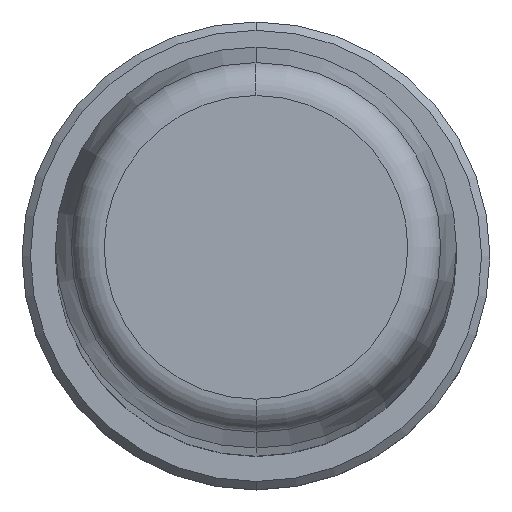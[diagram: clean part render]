
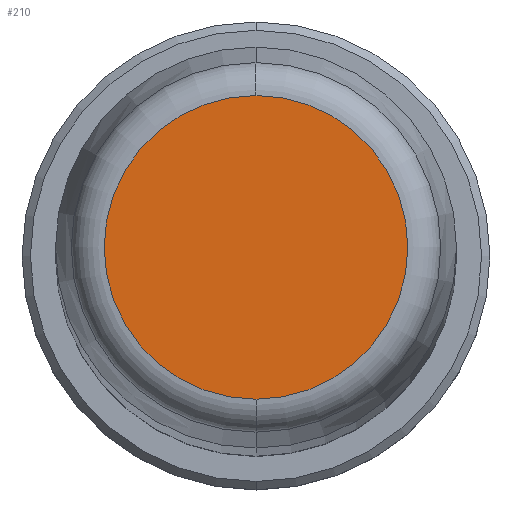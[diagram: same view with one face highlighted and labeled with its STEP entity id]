
A CAD part, top view. The second image highlights one B-rep face of the part: STEP entity #210.
In plain terms, the highlighted planar face has unit normal (0, 0, 1).
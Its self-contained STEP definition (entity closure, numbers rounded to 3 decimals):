
#1=CARTESIAN_POINT('',(0.,0.,300.));
#2=DIRECTION('',(0.,0.,-1.));
#3=DIRECTION('',(0.,-1.,0.));
#4=AXIS2_PLACEMENT_3D('',#1,#2,#3);
#6=CARTESIAN_POINT('',(0.,0.,300.));
#7=DIRECTION('',(0.,0.,-1.));
#8=DIRECTION('',(0.,1.,0.));
#9=AXIS2_PLACEMENT_3D('',#6,#7,#8);
#183=CARTESIAN_POINT('',(0.,-9.088,300.));
#184=CARTESIAN_POINT('',(0.,9.088,300.));
#185=VERTEX_POINT('',#183);
#186=VERTEX_POINT('',#184);
#199=CARTESIAN_POINT('',(0.,0.,300.));
#200=DIRECTION('',(0.,0.,1.));
#201=DIRECTION('',(0.,-1.,0.));
#202=AXIS2_PLACEMENT_3D('',#199,#200,#201);
#203=PLANE('',#202);
#205=ORIENTED_EDGE('',*,*,#204,.T.);
#207=ORIENTED_EDGE('',*,*,#206,.T.);
#208=EDGE_LOOP('',(#205,#207));
#209=FACE_OUTER_BOUND('',#208,.F.);
#210=ADVANCED_FACE('',(#209),#203,.T.);
#5=CIRCLE('',#4,9.088);
#10=CIRCLE('',#9,9.088);
#204=EDGE_CURVE('',#185,#186,#5,.T.);
#206=EDGE_CURVE('',#186,#185,#10,.T.);
